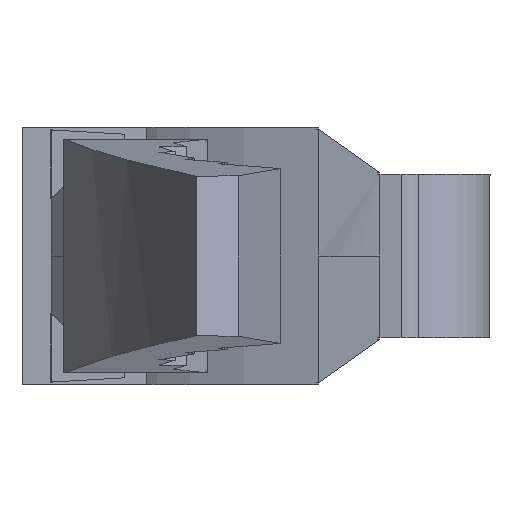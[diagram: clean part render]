
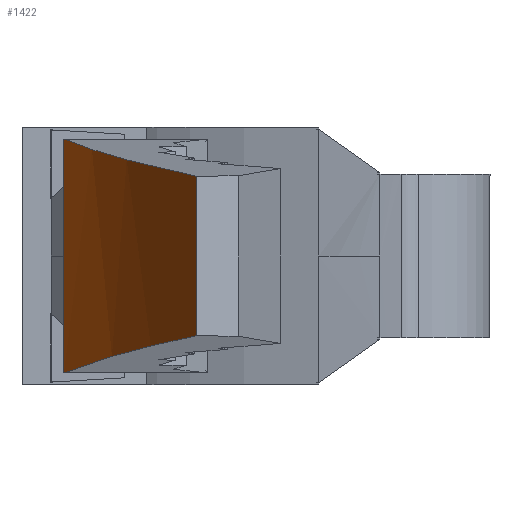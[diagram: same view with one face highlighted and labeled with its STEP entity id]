
A CAD part, front view. The second image highlights one B-rep face of the part: STEP entity #1422.
In plain terms, the highlighted cylindrical face has radius 230.804 mm (diameter 461.607 mm), a partial arc.
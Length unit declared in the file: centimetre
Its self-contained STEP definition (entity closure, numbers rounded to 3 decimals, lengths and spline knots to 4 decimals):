
#106=CYLINDRICAL_SURFACE('',#324,23.0804);
#116=CIRCLE('',#299,23.0804);
#126=CIRCLE('',#322,23.0804);
#144=VECTOR('',#369,1.);
#147=VECTOR('',#373,1.);
#221=LINE('',#1553,#144);
#224=LINE('',#1661,#147);
#299=AXIS2_PLACEMENT_3D('',#1705,#387,#388);
#322=AXIS2_PLACEMENT_3D('',#1985,#452,#453);
#324=AXIS2_PLACEMENT_3D('',#2039,#456,#457);
#369=DIRECTION('',(0.,0.,1.));
#373=DIRECTION('',(0.,0.,-1.));
#387=DIRECTION('',(0.,0.,1.));
#388=DIRECTION('',(23.08,0.,0.));
#452=DIRECTION('',(0.,0.,-1.));
#453=DIRECTION('',(23.08,0.,0.));
#456=DIRECTION('',(0.,0.,1.));
#457=DIRECTION('',(23.08,0.,0.));
#584=VERTEX_POINT('',#1552);
#585=VERTEX_POINT('',#1554);
#588=VERTEX_POINT('',#1588);
#589=VERTEX_POINT('',#1589);
#602=VERTEX_POINT('',#1660);
#650=VERTEX_POINT('',#1986);
#686=B_SPLINE_CURVE_WITH_KNOTS('',3,(#1582,#1583,#1584,#1585,#1586,#1587),
 .UNSPECIFIED.,.F.,.U.,(4,2,4),(0.,2.6334,5.4256),
 .UNSPECIFIED.);
#726=B_SPLINE_CURVE_WITH_KNOTS('',3,(#2012,#2013,#2014,#2015,#2016,#2017),
 .UNSPECIFIED.,.F.,.U.,(4,2,4),(0.,2.4823,5.4256),
 .UNSPECIFIED.);
#762=EDGE_CURVE('',#584,#585,#221,.T.);
#766=EDGE_CURVE('',#588,#589,#686,.T.);
#782=EDGE_CURVE('',#602,#589,#224,.T.);
#795=EDGE_CURVE('',#584,#588,#116,.T.);
#856=EDGE_CURVE('',#650,#585,#126,.T.);
#859=EDGE_CURVE('',#602,#650,#726,.T.);
#1107=ORIENTED_EDGE('',*,*,#766,.T.);
#1108=ORIENTED_EDGE('',*,*,#782,.F.);
#1109=ORIENTED_EDGE('',*,*,#859,.T.);
#1110=ORIENTED_EDGE('',*,*,#856,.T.);
#1111=ORIENTED_EDGE('',*,*,#762,.F.);
#1112=ORIENTED_EDGE('',*,*,#795,.T.);
#1283=EDGE_LOOP('',(#1107,#1108,#1109,#1110,#1111,#1112));
#1354=FACE_BOUND('',#1283,.T.);
#1422=ADVANCED_FACE('',(#1354),#106,.T.);
#1552=CARTESIAN_POINT('',(-1.1289,-5.0491,-1.5875));
#1553=CARTESIAN_POINT('',(-1.1289,-5.0491,0.));
#1554=CARTESIAN_POINT('',(-1.1289,-5.0491,1.5875));
#1582=CARTESIAN_POINT('',(-1.1184,-5.0958,-1.5875));
#1583=CARTESIAN_POINT('',(-0.9254,-5.9482,-1.5053));
#1584=CARTESIAN_POINT('',(-0.6842,-6.7889,-1.4234));
#1585=CARTESIAN_POINT('',(-0.0902,-8.4888,-1.255));
#1586=CARTESIAN_POINT('',(0.2679,-9.3444,-1.1687));
#1587=CARTESIAN_POINT('',(0.6765,-10.1762,-1.0822));
#1588=CARTESIAN_POINT('',(-1.1184,-5.0958,-1.5875));
#1589=CARTESIAN_POINT('',(0.6765,-10.1762,-1.0822));
#1660=CARTESIAN_POINT('',(0.6765,-10.1762,1.0822));
#1661=CARTESIAN_POINT('',(0.6765,-10.1762,0.));
#1705=CARTESIAN_POINT('',(21.3924,0.,-1.5875));
#1985=CARTESIAN_POINT('',(21.3924,0.,1.5875));
#1986=CARTESIAN_POINT('',(-1.1184,-5.0958,1.5875));
#2012=CARTESIAN_POINT('',(0.6765,-10.1762,1.0822));
#2013=CARTESIAN_POINT('',(0.3133,-9.4367,1.1591));
#2014=CARTESIAN_POINT('',(-0.0101,-8.6783,1.2359));
#2015=CARTESIAN_POINT('',(-0.6268,-6.9865,1.4042));
#2016=CARTESIAN_POINT('',(-0.9027,-6.0485,1.4957));
#2017=CARTESIAN_POINT('',(-1.1184,-5.0958,1.5875));
#2039=CARTESIAN_POINT('',(21.3924,0.,0.));
